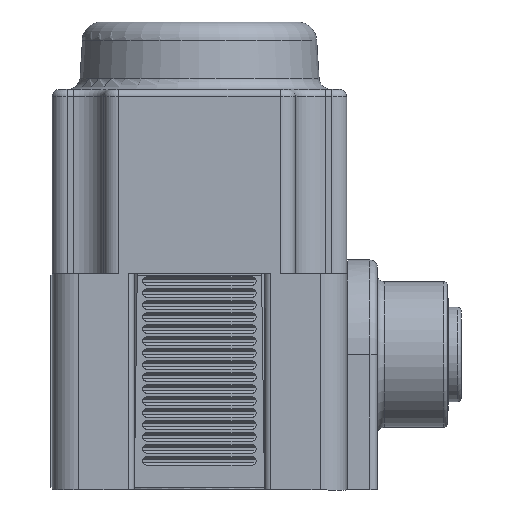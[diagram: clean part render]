
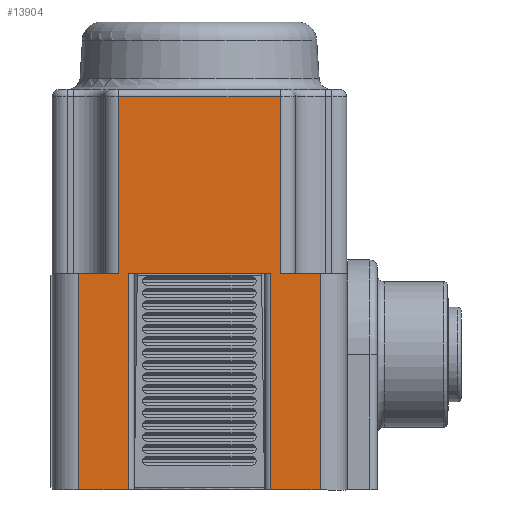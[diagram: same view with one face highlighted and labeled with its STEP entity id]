
A CAD part, left-side view. The second image highlights one B-rep face of the part: STEP entity #13904.
In plain terms, the highlighted planar face has unit normal (-1, 0, 0).
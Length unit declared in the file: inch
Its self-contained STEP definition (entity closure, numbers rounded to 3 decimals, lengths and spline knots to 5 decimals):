
#1640=LINE('',#24040,#2567);
#1653=LINE('',#24110,#2580);
#1776=LINE('',#25686,#2703);
#1794=LINE('',#25746,#2721);
#1795=LINE('',#25750,#2722);
#1798=LINE('',#25769,#2725);
#1811=LINE('',#25838,#2738);
#1812=LINE('',#25842,#2739);
#1813=LINE('',#25843,#2740);
#1814=LINE('',#25845,#2741);
#1815=LINE('',#25847,#2742);
#1816=LINE('',#25848,#2743);
#2567=VECTOR('',#18419,0.3937);
#2580=VECTOR('',#18502,0.3937);
#2703=VECTOR('',#18827,0.3937);
#2721=VECTOR('',#18899,0.3937);
#2722=VECTOR('',#18904,0.3937);
#2725=VECTOR('',#18925,0.3937);
#2738=VECTOR('',#19016,0.3937);
#2739=VECTOR('',#19021,0.3937);
#2740=VECTOR('',#19022,0.3937);
#2741=VECTOR('',#19023,0.3937);
#2742=VECTOR('',#19024,0.3937);
#2743=VECTOR('',#19025,0.3937);
#3570=FACE_OUTER_BOUND('',#4408,.T.);
#4408=EDGE_LOOP('',(#11915,#11916,#11917,#11918,#11919,#11920,#11921,#11922,
#11923,#11924,#11925,#11926));
#6007=VERTEX_POINT('',#24032);
#6009=VERTEX_POINT('',#24038);
#6031=VERTEX_POINT('',#24108);
#6167=VERTEX_POINT('',#25683);
#6168=VERTEX_POINT('',#25685);
#6183=VERTEX_POINT('',#25745);
#6184=VERTEX_POINT('',#25749);
#6191=VERTEX_POINT('',#25767);
#6208=VERTEX_POINT('',#25837);
#6209=VERTEX_POINT('',#25841);
#6210=VERTEX_POINT('',#25844);
#6211=VERTEX_POINT('',#25846);
#7812=EDGE_CURVE('',#6009,#6007,#1640,.T.);
#7848=EDGE_CURVE('',#6031,#6009,#1653,.T.);
#8057=EDGE_CURVE('',#6168,#6167,#1776,.T.);
#8087=EDGE_CURVE('',#6183,#6007,#1794,.T.);
#8089=EDGE_CURVE('',#6184,#6183,#1795,.T.);
#8099=EDGE_CURVE('',#6031,#6191,#1798,.T.);
#8133=EDGE_CURVE('',#6208,#6168,#1811,.T.);
#8135=EDGE_CURVE('',#6209,#6191,#1812,.T.);
#8136=EDGE_CURVE('',#6208,#6209,#1813,.T.);
#8137=EDGE_CURVE('',#6210,#6167,#1814,.T.);
#8138=EDGE_CURVE('',#6210,#6211,#1815,.T.);
#8139=EDGE_CURVE('',#6211,#6184,#1816,.T.);
#11915=ORIENTED_EDGE('',*,*,#7812,.F.);
#11916=ORIENTED_EDGE('',*,*,#7848,.F.);
#11917=ORIENTED_EDGE('',*,*,#8099,.T.);
#11918=ORIENTED_EDGE('',*,*,#8135,.F.);
#11919=ORIENTED_EDGE('',*,*,#8136,.F.);
#11920=ORIENTED_EDGE('',*,*,#8133,.T.);
#11921=ORIENTED_EDGE('',*,*,#8057,.T.);
#11922=ORIENTED_EDGE('',*,*,#8137,.F.);
#11923=ORIENTED_EDGE('',*,*,#8138,.T.);
#11924=ORIENTED_EDGE('',*,*,#8139,.T.);
#11925=ORIENTED_EDGE('',*,*,#8089,.T.);
#11926=ORIENTED_EDGE('',*,*,#8087,.T.);
#12422=PLANE('',#15317);
#13904=ADVANCED_FACE('',(#3570),#12422,.T.);
#15317=AXIS2_PLACEMENT_3D('',#25840,#19019,#19020);
#18419=DIRECTION('',(0.,-1.,0.));
#18502=DIRECTION('',(0.,0.,1.));
#18827=DIRECTION('',(0.,-1.,0.));
#18899=DIRECTION('',(0.,0.,1.));
#18904=DIRECTION('',(0.,1.,0.));
#18925=DIRECTION('',(0.,1.,0.));
#19016=DIRECTION('',(0.,0.,1.));
#19019=DIRECTION('center_axis',(-1.,0.,0.));
#19020=DIRECTION('ref_axis',(0.,0.,1.));
#19021=DIRECTION('',(0.,0.,1.));
#19022=DIRECTION('',(0.,1.,0.));
#19023=DIRECTION('',(0.,0.,1.));
#19024=DIRECTION('',(0.,-1.,0.));
#19025=DIRECTION('',(0.,0.,1.));
#24032=CARTESIAN_POINT('',(1.02483,-0.78969,0.65855));
#24038=CARTESIAN_POINT('',(1.02483,-0.12169,0.65855));
#24040=CARTESIAN_POINT('',(1.02483,-0.12169,0.65855));
#24108=CARTESIAN_POINT('',(1.02483,-0.12169,-0.07345));
#24110=CARTESIAN_POINT('',(1.02483,-0.12169,-0.07345));
#25683=CARTESIAN_POINT('',(1.02483,-0.74969,-0.07345));
#25685=CARTESIAN_POINT('',(1.02483,-0.16169,-0.07345));
#25686=CARTESIAN_POINT('',(1.02483,-0.16169,-0.07345));
#25745=CARTESIAN_POINT('',(1.02483,-0.78969,-0.07345));
#25746=CARTESIAN_POINT('',(1.02483,-0.78969,-0.07345));
#25749=CARTESIAN_POINT('',(1.02483,-0.95469,-0.07345));
#25750=CARTESIAN_POINT('',(1.02483,-0.95469,-0.07345));
#25767=CARTESIAN_POINT('',(1.02483,0.04331,-0.07345));
#25769=CARTESIAN_POINT('',(1.02483,-0.12169,-0.07345));
#25837=CARTESIAN_POINT('',(1.02483,-0.16169,-0.96745));
#25838=CARTESIAN_POINT('',(1.02483,-0.16169,-0.96745));
#25840=CARTESIAN_POINT('Origin',(1.02483,-0.95509,-0.15445));
#25841=CARTESIAN_POINT('',(1.02483,0.04331,-0.96745));
#25842=CARTESIAN_POINT('',(1.02483,0.04331,-0.96745));
#25843=CARTESIAN_POINT('',(1.02483,-0.16169,-0.96745));
#25844=CARTESIAN_POINT('',(1.02483,-0.74969,-0.96745));
#25845=CARTESIAN_POINT('',(1.02483,-0.74969,-0.96745));
#25846=CARTESIAN_POINT('',(1.02483,-0.95469,-0.96745));
#25847=CARTESIAN_POINT('',(1.02483,-0.74969,-0.96745));
#25848=CARTESIAN_POINT('',(1.02483,-0.95469,-0.96745));
